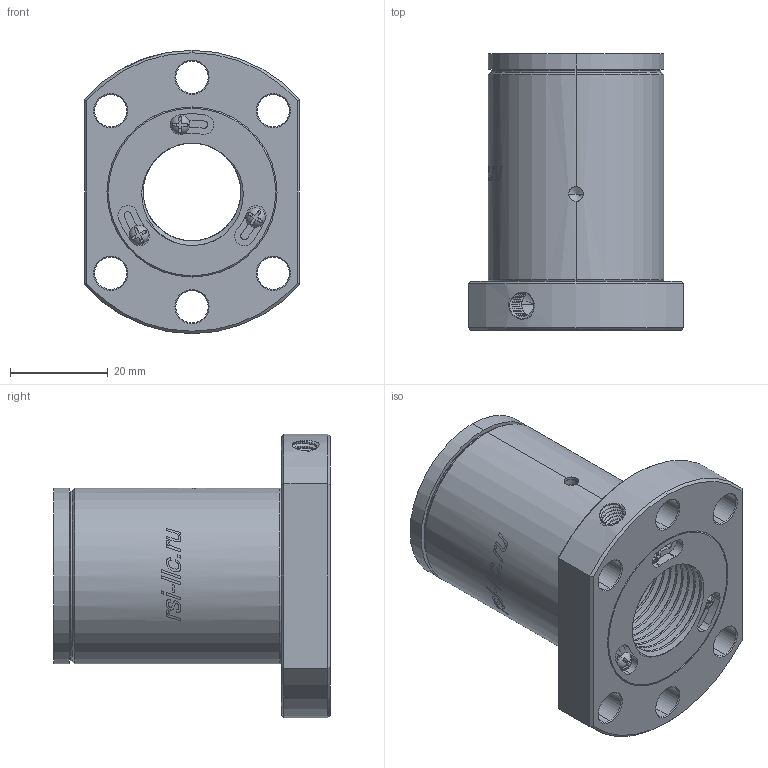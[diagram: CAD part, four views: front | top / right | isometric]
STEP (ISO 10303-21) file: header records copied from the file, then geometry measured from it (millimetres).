
FILE_DESCRIPTION (( 'STEP AP214' ), '1' );
FILE_NAME ('SFS 2020.STEP', '2026-06-08T09:41:34', ( '' ), ( '' ), 'SwSTEP 2.0', 'SolidWorks 2022', '' );
FILE_SCHEMA (( 'AUTOMOTIVE_DESIGN' ));
Length unit declared in the file: millimetre
Products named in the file (1): SFS 2020
Bounding box: 44 x 56.6 x 58 mm (x, y, z)
Volume: 48025.2 mm3; surface area: 30300.9 mm2
Topology: 8 solids, 8 shells, 369 faces, 1014 edges, 682 vertices
Faces by surface type: cylinder 213, plane 87, cone 42, torus 20, bspline 7
Entity records: 30820 total; most frequent: CARTESIAN_POINT 20446, ORIENTED_EDGE 2020, DIRECTION 1724, EDGE_CURVE 1010, AXIS2_PLACEMENT_3D 686, VERTEX_POINT 682, EDGE_LOOP 412, FACE_OUTER_BOUND 369
